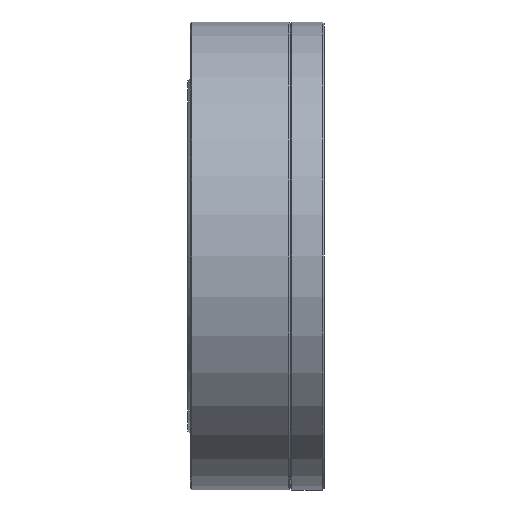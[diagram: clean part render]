
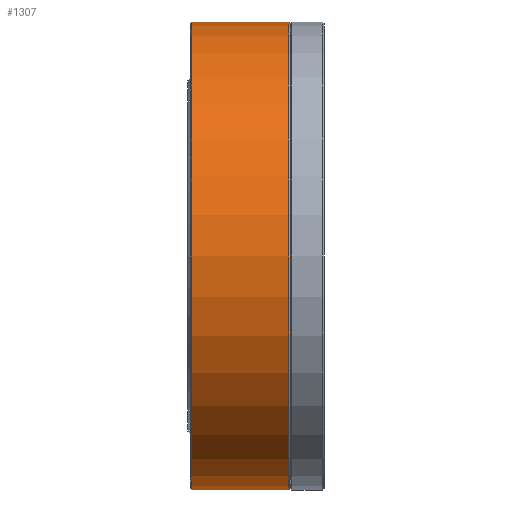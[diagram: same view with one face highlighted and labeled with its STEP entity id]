
A CAD part, front view. The second image highlights one B-rep face of the part: STEP entity #1307.
In plain terms, the highlighted cylindrical face has radius 55 mm (diameter 110 mm), a partial arc.
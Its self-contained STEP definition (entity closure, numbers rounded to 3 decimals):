
#89 = ORIENTED_EDGE ( 'NONE', *, *, #16598, .T. ) ;
#226 = AXIS2_PLACEMENT_3D ( 'NONE', #3132, #15067, #4873 ) ;
#1146 = CIRCLE ( 'NONE', #15340, 55. ) ;
#1307 = ADVANCED_FACE ( 'NONE', ( #12492 ), #21077, .T. ) ;
#1461 = DIRECTION ( 'NONE',  ( 0., 0., 1. ) ) ;
#3035 = LINE ( 'NONE', #20499, #6546 ) ;
#3132 = CARTESIAN_POINT ( 'NONE',  ( 1.115, 0., 0. ) ) ;
#3197 = CARTESIAN_POINT ( 'NONE',  ( 0., 0., 0. ) ) ;
#3732 = CARTESIAN_POINT ( 'NONE',  ( 1.115, 0., 55. ) ) ;
#4873 = DIRECTION ( 'NONE',  ( 0., 0., 1. ) ) ;
#5463 = ORIENTED_EDGE ( 'NONE', *, *, #9856, .F. ) ;
#6429 = VECTOR ( 'NONE', #18629, 1000. ) ;
#6546 = VECTOR ( 'NONE', #8555, 1000. ) ;
#6710 = CARTESIAN_POINT ( 'NONE',  ( 0., 0., 55. ) ) ;
#6991 = DIRECTION ( 'NONE',  ( -1., 0., 0. ) ) ;
#7196 = CARTESIAN_POINT ( 'NONE',  ( 23.892, 0., -55. ) ) ;
#8555 = DIRECTION ( 'NONE',  ( -1., 0., 0. ) ) ;
#8671 = CARTESIAN_POINT ( 'NONE',  ( 23.892, 0., 55. ) ) ;
#8908 = VERTEX_POINT ( 'NONE', #9039 ) ;
#9039 = CARTESIAN_POINT ( 'NONE',  ( 1.115, 0., -55. ) ) ;
#9856 = EDGE_CURVE ( 'NONE', #17304, #8908, #3035, .T. ) ;
#10049 = DIRECTION ( 'NONE',  ( -1., 0., 0. ) ) ;
#10973 = CIRCLE ( 'NONE', #226, 55. ) ;
#11567 = EDGE_CURVE ( 'NONE', #12369, #20972, #16042, .T. ) ;
#12369 = VERTEX_POINT ( 'NONE', #8671 ) ;
#12492 = FACE_OUTER_BOUND ( 'NONE', #13625, .T. ) ;
#13625 = EDGE_LOOP ( 'NONE', ( #5463, #89, #15791, #15964 ) ) ;
#15067 = DIRECTION ( 'NONE',  ( -1., 0., 0. ) ) ;
#15340 = AXIS2_PLACEMENT_3D ( 'NONE', #17195, #6991, #18925 ) ;
#15791 = ORIENTED_EDGE ( 'NONE', *, *, #11567, .T. ) ;
#15964 = ORIENTED_EDGE ( 'NONE', *, *, #19498, .F. ) ;
#16042 = LINE ( 'NONE', #6710, #6429 ) ;
#16598 = EDGE_CURVE ( 'NONE', #17304, #12369, #1146, .T. ) ;
#17195 = CARTESIAN_POINT ( 'NONE',  ( 23.892, 0., 0. ) ) ;
#17304 = VERTEX_POINT ( 'NONE', #7196 ) ;
#18629 = DIRECTION ( 'NONE',  ( -1., 0., 0. ) ) ;
#18925 = DIRECTION ( 'NONE',  ( 0., 0., 1. ) ) ;
#19498 = EDGE_CURVE ( 'NONE', #8908, #20972, #10973, .T. ) ;
#19888 = AXIS2_PLACEMENT_3D ( 'NONE', #3197, #10049, #1461 ) ;
#20499 = CARTESIAN_POINT ( 'NONE',  ( 0., 0., -55. ) ) ;
#20972 = VERTEX_POINT ( 'NONE', #3732 ) ;
#21077 = CYLINDRICAL_SURFACE ( 'NONE', #19888, 55. ) ;
